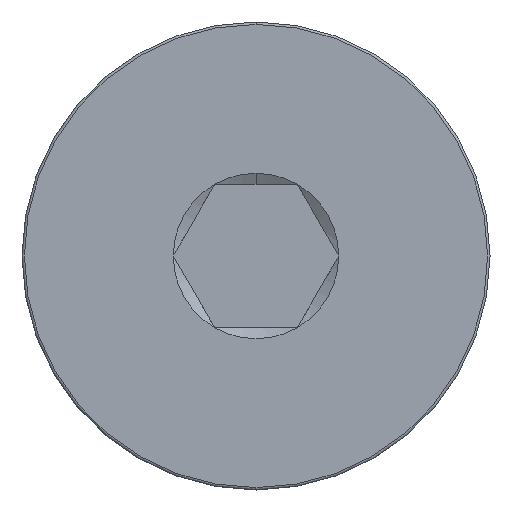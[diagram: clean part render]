
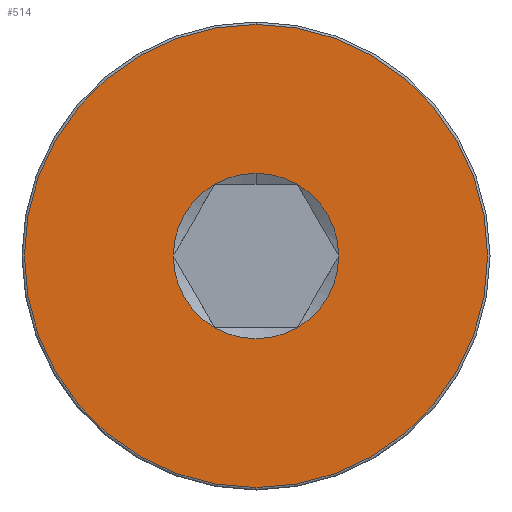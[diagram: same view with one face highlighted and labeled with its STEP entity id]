
A CAD part, left-side view. The second image highlights one B-rep face of the part: STEP entity #514.
In plain terms, the highlighted planar face has unit normal (-1, 0, 0).
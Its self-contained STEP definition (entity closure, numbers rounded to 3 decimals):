
#6 = FACE_BOUND ( 'NONE', #232, .T. ) ;
#8 = VERTEX_POINT ( 'NONE', #65 ) ;
#22 = CARTESIAN_POINT ( 'NONE',  ( 0., 0., -4.85 ) ) ;
#23 = CIRCLE ( 'NONE', #473, 1.732 ) ;
#50 = ORIENTED_EDGE ( 'NONE', *, *, #553, .T. ) ;
#51 = CARTESIAN_POINT ( 'NONE',  ( 0., 0., 0. ) ) ;
#65 = CARTESIAN_POINT ( 'NONE',  ( 0., -0.866, -1.5 ) ) ;
#81 = FACE_OUTER_BOUND ( 'NONE', #227, .T. ) ;
#125 = DIRECTION ( 'NONE',  ( 0., 0., 1. ) ) ;
#133 = DIRECTION ( 'NONE',  ( 1., 0., 0. ) ) ;
#136 = CARTESIAN_POINT ( 'NONE',  ( 0., 0., 4.85 ) ) ;
#151 = VERTEX_POINT ( 'NONE', #334 ) ;
#153 = DIRECTION ( 'NONE',  ( 0., 0., -1. ) ) ;
#159 = AXIS2_PLACEMENT_3D ( 'NONE', #762, #460, #396 ) ;
#165 = VERTEX_POINT ( 'NONE', #535 ) ;
#182 = CIRCLE ( 'NONE', #633, 1.732 ) ;
#189 = CARTESIAN_POINT ( 'NONE',  ( 0., -1.732, 0. ) ) ;
#192 = AXIS2_PLACEMENT_3D ( 'NONE', #193, #133, #565 ) ;
#193 = CARTESIAN_POINT ( 'NONE',  ( 0., 0., 0. ) ) ;
#197 = CARTESIAN_POINT ( 'NONE',  ( 0., 0.866, -1.5 ) ) ;
#205 = CIRCLE ( 'NONE', #388, 1.732 ) ;
#221 = EDGE_CURVE ( 'NONE', #8, #469, #356, .T. ) ;
#227 = EDGE_LOOP ( 'NONE', ( #548, #562 ) ) ;
#232 = EDGE_LOOP ( 'NONE', ( #624, #50, #495, #237, #410, #558, #518 ) ) ;
#237 = ORIENTED_EDGE ( 'NONE', *, *, #723, .T. ) ;
#292 = DIRECTION ( 'NONE',  ( 1., 0., 0. ) ) ;
#315 = PLANE ( 'NONE',  #632 ) ;
#320 = AXIS2_PLACEMENT_3D ( 'NONE', #577, #329, #153 ) ;
#322 = EDGE_CURVE ( 'NONE', #151, #417, #23, .T. ) ;
#329 = DIRECTION ( 'NONE',  ( 1., 0., 0. ) ) ;
#334 = CARTESIAN_POINT ( 'NONE',  ( 0., 0., 1.732 ) ) ;
#338 = CIRCLE ( 'NONE', #663, 1.732 ) ;
#356 = CIRCLE ( 'NONE', #159, 1.732 ) ;
#362 = DIRECTION ( 'NONE',  ( 0., 0., -1. ) ) ;
#371 = DIRECTION ( 'NONE',  ( 0., 0., -1. ) ) ;
#376 = CARTESIAN_POINT ( 'NONE',  ( 0., 0., 0. ) ) ;
#388 = AXIS2_PLACEMENT_3D ( 'NONE', #376, #696, #371 ) ;
#396 = DIRECTION ( 'NONE',  ( 0., 0., -1. ) ) ;
#401 = CIRCLE ( 'NONE', #540, 4.85 ) ;
#410 = ORIENTED_EDGE ( 'NONE', *, *, #603, .T. ) ;
#417 = VERTEX_POINT ( 'NONE', #425 ) ;
#425 = CARTESIAN_POINT ( 'NONE',  ( 0., -0.866, 1.5 ) ) ;
#429 = DIRECTION ( 'NONE',  ( -1., 0., 0. ) ) ;
#433 = CARTESIAN_POINT ( 'NONE',  ( 0., 0., 0. ) ) ;
#442 = EDGE_CURVE ( 'NONE', #737, #479, #443, .T. ) ;
#443 = CIRCLE ( 'NONE', #546, 4.85 ) ;
#444 = DIRECTION ( 'NONE',  ( 1., 0., 0. ) ) ;
#445 = DIRECTION ( 'NONE',  ( 0., 0., -1. ) ) ;
#454 = DIRECTION ( 'NONE',  ( 0., 0., 1. ) ) ;
#460 = DIRECTION ( 'NONE',  ( 1., 0., 0. ) ) ;
#464 = EDGE_CURVE ( 'NONE', #469, #681, #205, .T. ) ;
#467 = CARTESIAN_POINT ( 'NONE',  ( 0., 1.732, 0. ) ) ;
#469 = VERTEX_POINT ( 'NONE', #197 ) ;
#470 = EDGE_CURVE ( 'NONE', #681, #165, #338, .T. ) ;
#473 = AXIS2_PLACEMENT_3D ( 'NONE', #51, #292, #362 ) ;
#479 = VERTEX_POINT ( 'NONE', #136 ) ;
#494 = CARTESIAN_POINT ( 'NONE',  ( 0., 0., 0. ) ) ;
#495 = ORIENTED_EDGE ( 'NONE', *, *, #322, .T. ) ;
#514 = ADVANCED_FACE ( 'NONE', ( #81, #6 ), #315, .T. ) ;
#518 = ORIENTED_EDGE ( 'NONE', *, *, #464, .T. ) ;
#531 = VERTEX_POINT ( 'NONE', #189 ) ;
#535 = CARTESIAN_POINT ( 'NONE',  ( 0., 0.866, 1.5 ) ) ;
#540 = AXIS2_PLACEMENT_3D ( 'NONE', #714, #756, #454 ) ;
#546 = AXIS2_PLACEMENT_3D ( 'NONE', #433, #570, #125 ) ;
#548 = ORIENTED_EDGE ( 'NONE', *, *, #612, .T. ) ;
#553 = EDGE_CURVE ( 'NONE', #165, #151, #758, .T. ) ;
#558 = ORIENTED_EDGE ( 'NONE', *, *, #221, .T. ) ;
#562 = ORIENTED_EDGE ( 'NONE', *, *, #442, .T. ) ;
#565 = DIRECTION ( 'NONE',  ( 0., 0., -1. ) ) ;
#570 = DIRECTION ( 'NONE',  ( -1., 0., 0. ) ) ;
#573 = CARTESIAN_POINT ( 'NONE',  ( 0., 0., 0. ) ) ;
#577 = CARTESIAN_POINT ( 'NONE',  ( 0., 0., 0. ) ) ;
#603 = EDGE_CURVE ( 'NONE', #531, #8, #722, .T. ) ;
#612 = EDGE_CURVE ( 'NONE', #479, #737, #401, .T. ) ;
#624 = ORIENTED_EDGE ( 'NONE', *, *, #470, .T. ) ;
#632 = AXIS2_PLACEMENT_3D ( 'NONE', #494, #429, #682 ) ;
#633 = AXIS2_PLACEMENT_3D ( 'NONE', #573, #444, #698 ) ;
#663 = AXIS2_PLACEMENT_3D ( 'NONE', #744, #685, #445 ) ;
#681 = VERTEX_POINT ( 'NONE', #467 ) ;
#682 = DIRECTION ( 'NONE',  ( 0., 0., 1. ) ) ;
#685 = DIRECTION ( 'NONE',  ( 1., 0., 0. ) ) ;
#696 = DIRECTION ( 'NONE',  ( 1., 0., 0. ) ) ;
#698 = DIRECTION ( 'NONE',  ( 0., 0., -1. ) ) ;
#714 = CARTESIAN_POINT ( 'NONE',  ( 0., 0., 0. ) ) ;
#722 = CIRCLE ( 'NONE', #320, 1.732 ) ;
#723 = EDGE_CURVE ( 'NONE', #417, #531, #182, .T. ) ;
#737 = VERTEX_POINT ( 'NONE', #22 ) ;
#744 = CARTESIAN_POINT ( 'NONE',  ( 0., 0., 0. ) ) ;
#756 = DIRECTION ( 'NONE',  ( -1., 0., 0. ) ) ;
#758 = CIRCLE ( 'NONE', #192, 1.732 ) ;
#762 = CARTESIAN_POINT ( 'NONE',  ( 0., 0., 0. ) ) ;
